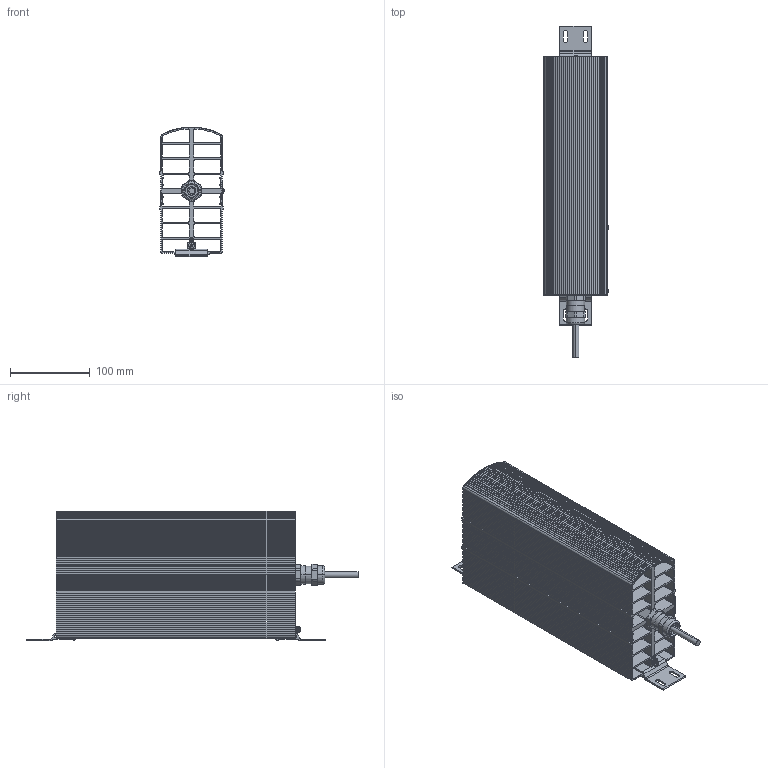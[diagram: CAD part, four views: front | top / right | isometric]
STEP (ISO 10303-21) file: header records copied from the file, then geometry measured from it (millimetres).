
FILE_DESCRIPTION (( 'STEP AP214' ), '1' );
FILE_NAME ('02044.x-1x_Ex-Heizgeraet.STEP', '2017-08-09T10:48:43', ( '' ), ( '' ), 'SwSTEP 2.0', 'SolidWorks 2017', '' );
FILE_SCHEMA (( 'AUTOMOTIVE_DESIGN' ));
Length unit declared in the file: millimetre
Products named in the file (1): 02044.x-1x_Ex-Heizgeraet
Bounding box: 81.16 x 417 x 162.8 mm (x, y, z)
Surface area: 636979.7 mm2 (no closed solid volume)
Topology: 0 solids, 13 shells, 745 faces, 3062 edges, 2154 vertices
Faces by surface type: plane 540, cylinder 180, torus 12, cone 6, sphere 6, bspline 1
Entity records: 39731 total; most frequent: CARTESIAN_POINT 6547, ORIENTED_EDGE 4956, DIRECTION 4916, EDGE_CURVE 3062, VECTOR 2536, LINE 2536, VERTEX_POINT 2154, AXIS2_PLACEMENT_3D 1190
